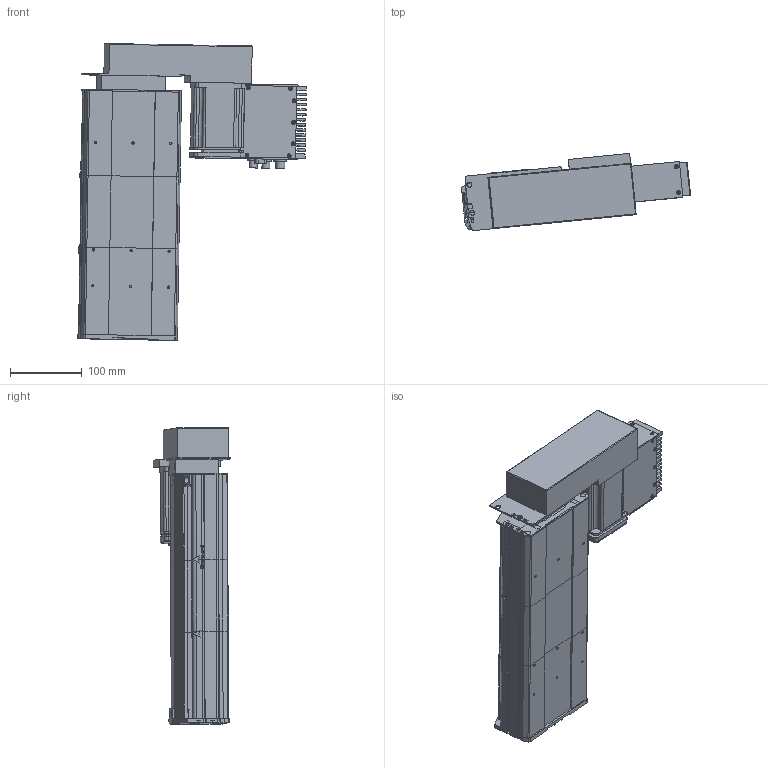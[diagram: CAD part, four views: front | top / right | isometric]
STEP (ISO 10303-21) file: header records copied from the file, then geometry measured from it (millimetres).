
FILE_DESCRIPTION (( 'STEP AP203' ), '1' );
FILE_NAME ('D14 TSH M4 BL L10 S100.STEP', '2012-10-11T07:30:42', ( '' ), ( '' ), 'SwSTEP 2.0', 'SolidWorks 2010', '' );
FILE_SCHEMA (( 'CONFIG_CONTROL_DESIGN' ));
Products named in the file (23): Tôle Arrière_2; corpl tail D14_Default_2; couvercle D14_Default_2; Connecteur rond D10 3cts_2; Colonnette_2; Radiateur_2; Vis TF 3 torkx_2; plaque de bout head D14 BL; D14 TSH M4 BL L10 S100; corp head D14_Default_2; plaque de  bout head D14 MD_Default_2; Moteur_2; T犨e contre le moteur_2; Sub D 9cts_2; T犨e fond_2; Couvercle_2; Tôle latérale_2; Connecteur rond D12 4cts_2; Moteur 70BLDC90A_2; couvercle D14 head_Default_2; plaque de  bout tail D14_Default_2; Pièce26; Pièce29
Assembly tree (49 placements, depth 3):
  D14 TSH M4 BL L10 S100
    plaque de  bout head D14 MD_Default_2
    couvercle D14 head_Default_2
    Moteur_2
      Vis TF 3 torkx_2  x26
      Colonnette_2
      Tôle latérale_2  x2
      Sub D 9cts_2
      T犨e fond_2
      Tôle Arrière_2
      Connecteur rond D10 3cts_2  x2
      Radiateur_2
      Couvercle_2
      T犨e contre le moteur_2
      Moteur 70BLDC90A_2
      Connecteur rond D12 4cts_2
    plaque de bout head D14 BL
    corp head D14_Default_2
    couvercle D14_Default_2
    Pièce26
    corpl tail D14_Default_2
    Pièce29
    plaque de  bout tail D14_Default_2
Bounding box: 319.31 x 107.75 x 413.76 mm (x, y, z)
Volume: 2356669.3 mm3; surface area: 626789.2 mm2
Topology: 70 solids, 70 shells, 2397 faces, 6263 edges, 4128 vertices
Faces by surface type: plane 1296, cylinder 837, cone 134, bspline 130
Entity records: 64883 total; most frequent: CARTESIAN_POINT 20882, ORIENTED_EDGE 8580, DIRECTION 8198, EDGE_CURVE 4290, VECTOR 2874, LINE 2874, VERTEX_POINT 2834, AXIS2_PLACEMENT_3D 2662
